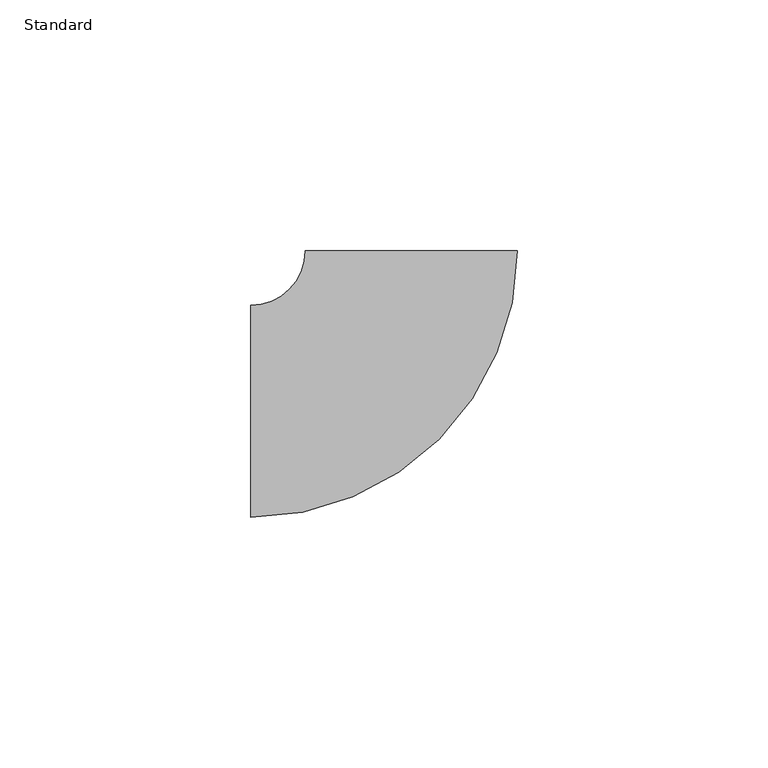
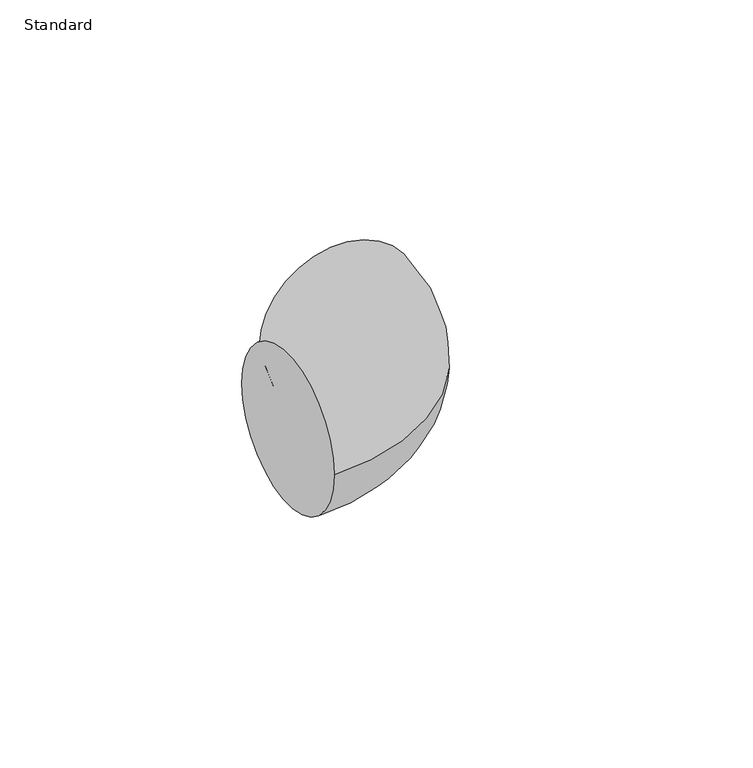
"""IFC4 building model written with IfcOpenShell, lengths in millimetres: pipe fitting geometry, Coude - Générique1 : Standard."""

from ifc_helpers import new_model, si_unit, point, frame, origin, place, context, project, spatial, circle_curve, ellipse_curve, trimmed, source, transform, mapped, element, save
from ifc_brep_helpers import plane_surface, revolved_surface, advanced_brep


def standard_8dba9d94(model_context):
    return source(origin(), model_context, "Body", "AdvancedBrep", [
        advanced_brep(
        [(-32.0, -21.1, 0.0), (-32.0, 21.1, 0.0), (21.1, 32.0, 0.0), (-21.1, 32.0, 0.0)],
        [
            (0, 1, circle_curve(frame((-32.0, 0.0, 0.0), z_axis=(-1.0, 0.0, 0.0), x_axis=(0.0, 1.0, 0.0)), 21.1)),
            (1, 0, circle_curve(frame((-32.0, 0.0, 0.0), z_axis=(-1.0, 0.0, 0.0), x_axis=(0.0, 1.0, 0.0)), 21.1)),
            (2, 3, circle_curve(frame((0.0, 32.0, 0.0), z_axis=(0.0, 1.0, 0.0), x_axis=(-1.0, 0.0, 0.0)), 21.1)),
            (3, 2, circle_curve(frame((0.0, 32.0, 0.0), z_axis=(0.0, 1.0, 0.0), x_axis=(-1.0, 0.0, 0.0)), 21.1)),
            (3, 1, circle_curve(frame((-32.0, 32.0, 0.0), z_axis=(0.0, 0.0, -1.0), x_axis=(0.0, -1.0, 0.0)), 10.9)),
            (0, 2, circle_curve(frame((-32.0, 32.0, 0.0), z_axis=(0.0, 0.0, 1.0), x_axis=(0.0, -1.0, 0.0)), 53.1)),
        ],
        [
            plane_surface(frame((-32.0, 0.0, 0.0), z_axis=(-1.0, 0.0, 0.0), x_axis=(0.0, 0.0, 1.0))),
            plane_surface(frame((0.0, 32.0, 0.0), z_axis=(0.0, 1.0, 0.0), x_axis=(0.0, 0.0, 1.0))),
            revolved_surface(trimmed(ellipse_curve(frame((-32.0, 0.0, 0.0), z_axis=(-1.0, 0.0, 0.0), x_axis=(0.0, 1.0, 0.0)), 21.1, 21.1), [point((-32.0, -21.1, 0.0))], [point((-32.0, 21.1, 0.0))], True, "CARTESIAN"), (-32.0, 32.0, 0.0), (0.0, 0.0, 1.0)),
            revolved_surface(trimmed(ellipse_curve(frame((-32.0, 0.0, 0.0), z_axis=(-1.0, 0.0, 0.0), x_axis=(0.0, 1.0, 0.0)), 21.1, 21.1), [point((-32.0, 21.1, 0.0))], [point((-32.0, -21.1, 0.0))], True, "CARTESIAN"), (-32.0, 32.0, 0.0), (0.0, 0.0, 1.0)),
        ],
        [
            (0, [[1, 2]]),
            (1, [[3, 4]]),
            (2, [[5, -1, 6, -4]]),
            (3, [[-6, -2, -5, -3]]),
        ],
    ),
    ])


if __name__ == "__main__":
    model = new_model("IFC4")
    model_context = context("Model", 3, world=origin())
    ifc_project = project(units=[si_unit("LENGTHUNIT", "METRE", prefix="MILLI")], contexts=[model_context])
    site = spatial("IfcSite", under=ifc_project)
    building = spatial("IfcBuilding", under=site)
    placement = place(None, origin())
    standard_shape = standard_8dba9d94(model_context)
    element("IfcPipeFitting", 1, ObjectType="Coude - Générique1 : Standard", at=placement, inside=building, context=model_context, shape_type="MappedRepresentation", body=[
        mapped(standard_shape, transform((0.0, 0.0, 0.0), x_axis=(1.0, 0.0, 0.0), y_axis=(0.0, 1.0, 0.0), z_axis=(0.0, 0.0, 1.0))),
    ])
    save(model, "model.ifc")
